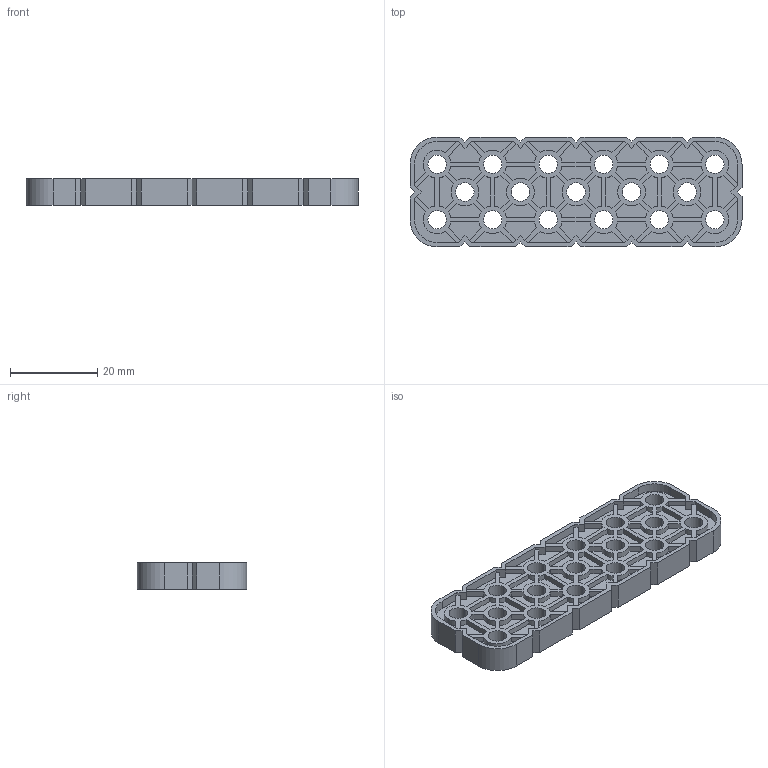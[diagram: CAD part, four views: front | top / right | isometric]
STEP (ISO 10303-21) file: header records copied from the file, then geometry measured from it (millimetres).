
FILE_DESCRIPTION (( 'STEP AP214' ), '1' );
FILE_NAME ('228-2500-021.STEP', '2021-02-18T19:24:41', ( '' ), ( '' ), 'SwSTEP 2.0', 'SolidWorks 2019', '' );
FILE_SCHEMA (( 'AUTOMOTIVE_DESIGN' ));
Length unit declared in the file: millimetre
Products named in the file (1): 228-2500-021
Bounding box: 75.9 x 25.1 x 6.1 mm (x, y, z)
Volume: 5486.6 mm3; surface area: 8163.2 mm2
Topology: 1 solids, 1 shells, 704 faces, 1980 edges, 1320 vertices
Faces by surface type: plane 452, cylinder 252
Entity records: 22830 total; most frequent: CARTESIAN_POINT 4005, ORIENTED_EDGE 3960, DIRECTION 3894, EDGE_CURVE 1980, VECTOR 1476, LINE 1476, VERTEX_POINT 1320, AXIS2_PLACEMENT_3D 1209
